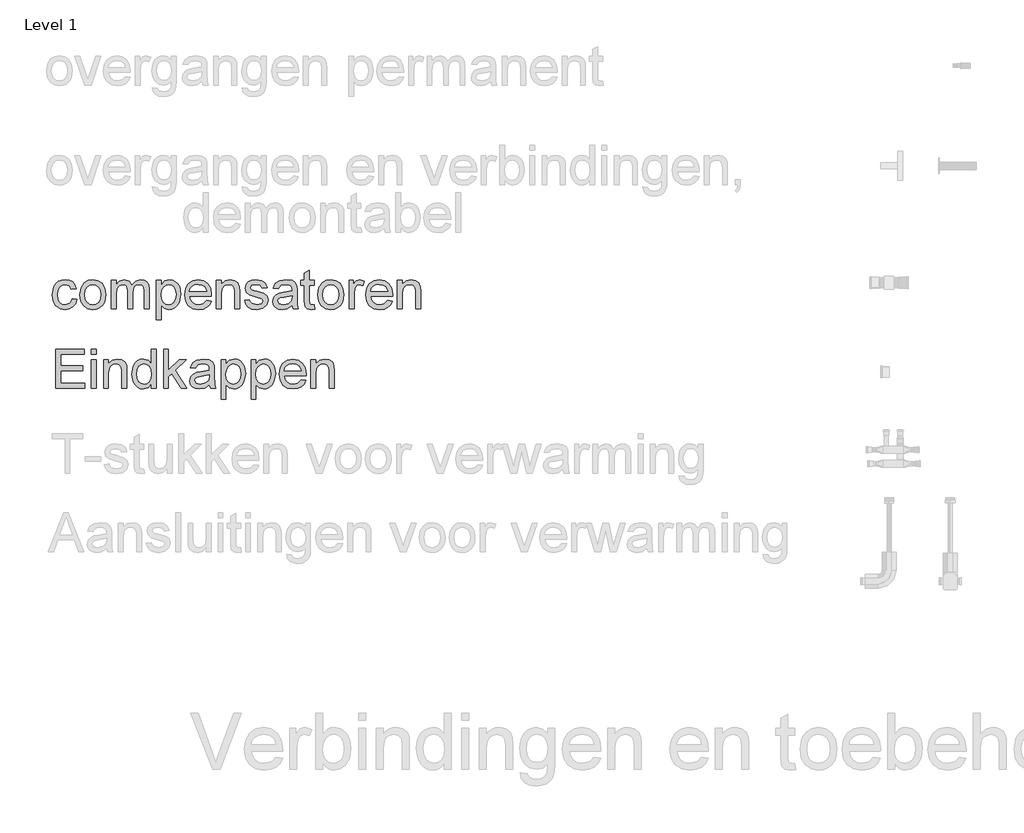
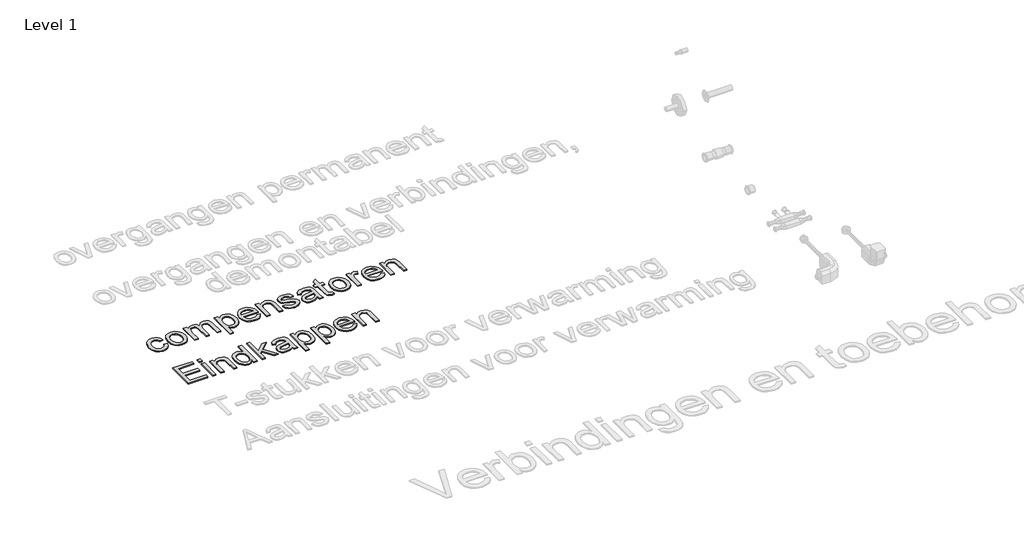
# One storey, part 5 of 8: 2 proxies.
"""IFC4 building model written with IfcOpenShell, lengths in millimetres."""

from ifc_helpers import new_model, si_unit, origin, origin_with_axes, place, context, project, spatial, polyline, outline, extrude, element, save

model = new_model("IFC4")

# Units and contexts
model_context = context("Model", 3, world=origin())
ifc_project = project(units=[si_unit("LENGTHUNIT", "METRE", prefix="MILLI")], contexts=[model_context])

# Site, building, storey
site = spatial("IfcSite", under=ifc_project)
building = spatial("IfcBuilding", under=site)
storey = spatial("IfcBuildingStorey", under=building, Name="Level 1", Elevation=0.0)

# Proxies
placement = place(None, origin())
element("IfcBuildingElementProxy", 1, Name="small", ObjectType="small", at=placement, inside=storey, context=model_context, shape_type="SweptSolid", body=[
    extrude(outline(polyline([(2726.3191221, 4813.8562542), (2743.8989764, 4811.6587724), (2738.9975619, 4796.0231745), (2729.787023, 4784.2074179), (2717.1343349, 4776.778041), (2701.9064729, 4774.3015821), (2683.2064179, 4777.7566071), (2668.5837218, 4788.1216823), (2659.1457092, 4804.9418603), (2655.999705, 4827.7621936), (2661.3732347, 4856.9646664), (2668.1545261, 4867.9134477), (2677.7513411, 4875.7291007), (2689.232325, 4880.4159173), (2701.6661233, 4881.9781895), (2716.5205851, 4879.8322112), (2728.3964291, 4873.3942763), (2736.915963, 4863.0077413), (2741.7014946, 4849.0159627), (2724.1216403, 4846.8184809), (2715.9669227, 4859.9862038), (2701.8034659, 4864.3983352), (2690.4426568, 4862.2266052), (2681.4252559, 4855.711415), (2675.5409834, 4844.5008244), (2673.5795593, 4828.2428927), (2675.4980639, 4811.7660713), (2681.2535777, 4800.516853), (2690.1078842, 4794.0402905), (2701.3227668, 4791.8814363), (2717.8897193, 4797.2721338), (2723.3190444, 4804.1135127), (2726.3191221, 4813.8562542)])), origin_with_axes(), (0.0, 0.0, 1.0), 5.0),
    extrude(outline(polyline([(2754.8863853, 4828.1398858), (2758.6890588, 4853.041818), (2770.0970795, 4870.5444171), (2784.191865, 4879.1197464), (2801.0678384, 4881.9781895), (2819.5361277, 4878.4974127), (2834.2875826, 4868.0550823), (2843.9573608, 4851.4752539), (2847.1806202, 4829.5819832), (2845.7556906, 4811.8218667), (2841.4809019, 4798.3022034), (2834.4807206, 4788.1774778), (2824.8796137, 4780.6021744), (2813.475885, 4775.8767301), (2801.0678384, 4774.3015821), (2782.3763674, 4777.769483), (2767.6420803, 4788.1731858), (2758.0753091, 4805.1006627), (2754.8863853, 4828.1398858)]), holes=[polyline([(2772.4662396, 4828.1742214), (2774.500627, 4812.2639383), (2780.6037893, 4800.9288809), (2789.7885764, 4794.1432975), (2801.0678384, 4791.8814363), (2812.2955969, 4794.1561733), (2821.4632162, 4800.9803843), (2827.5663785, 4812.4656602), (2829.600766, 4828.7235919), (2827.5535027, 4844.1703437), (2821.4117128, 4855.3508907), (2812.2312176, 4862.1364741), (2801.0678384, 4864.3983352), (2789.7885764, 4862.145058), (2780.6037893, 4855.3852263), (2774.500627, 4844.0759207), (2772.4662396, 4828.1742214)])]), origin_with_axes(), (0.0, 0.0, 1.0), 5.0),
    extrude(outline(polyline([(2866.9579563, 4776.4990638), (2866.9579563, 4879.7807077), (2884.5378106, 4879.7807077), (2884.5378106, 4862.7845595), (2896.6239604, 4876.7076668), (2913.8261225, 4881.9781895), (2931.4403124, 4876.6046598), (2941.1229665, 4861.548476), (2954.8400599, 4876.8707611), (2972.1623967, 4881.9781895), (2985.3773311, 4879.853671), (2995.1501163, 4873.4801154), (3001.1888993, 4862.6858445), (3003.2018269, 4847.2991801), (3003.2018269, 4776.4990638), (2985.6219727, 4776.4990638), (2985.6219727, 4839.7453364), (2983.9910292, 4854.4238281), (2978.0852969, 4861.651483), (2968.0421184, 4864.3983352), (2958.5182667, 4862.638633), (2950.7541172, 4857.3595264), (2945.5908934, 4848.200491), (2943.8698188, 4834.8010024), (2943.8698188, 4776.4990638), (2926.2899645, 4776.4990638), (2926.2899645, 4841.7024687), (2922.2211896, 4858.7329525), (2916.8519519, 4862.9819895), (2908.8817885, 4864.3983352), (2895.868576, 4860.6214134), (2887.2159915, 4849.5653332), (2884.5378106, 4828.5862493), (2884.5378106, 4776.4990638), (2866.9579563, 4776.4990638)])), origin_with_axes(), (0.0, 0.0, 1.0), 5.0),
    extrude(outline(polyline([(3029.5716084, 4736.9443917), (3029.5716084, 4879.7807077), (3047.1514626, 4879.7807077), (3047.1514626, 4862.54421), (3059.3062838, 4877.1196946), (3075.7187258, 4881.9781895), (3087.6074456, 4880.2785747), (3098.0025646, 4875.1797302), (3106.466303, 4866.990677), (3112.5608814, 4856.0204359), (3117.4708797, 4828.9296058), (3111.9256718, 4800.4481817), (3105.1272125, 4789.2719267), (3095.8222506, 4781.0485378), (3084.9850602, 4775.988321), (3073.5899154, 4774.3015821), (3058.293382, 4778.8167204), (3047.1514626, 4790.233325), (3047.1514626, 4736.9443917), (3029.5716084, 4736.9443917)]), holes=[polyline([(3047.1514626, 4827.3158301), (3049.0527994, 4811.5557654), (3054.7568097, 4800.5340209), (3063.1733367, 4794.0445825), (3073.2122232, 4791.8814363), (3083.414204, 4794.1218377), (3092.0453288, 4800.8430417), (3097.9296013, 4812.2682302), (3099.8910255, 4828.6205849), (3097.9768128, 4844.2948105), (3092.2341749, 4855.4710655), (3083.8305238, 4862.1665178), (3073.9332719, 4864.3983352), (3063.9973923, 4862.0248832), (3055.2718445, 4854.9045272), (3049.1815581, 4843.2604489), (3047.1514626, 4827.3158301)])]), origin_with_axes(), (0.0, 0.0, 1.0), 5.0),
    extrude(outline(polyline([(3209.5591008, 4807.2638088), (3226.7955985, 4805.066327), (3220.5851373, 4792.0788663), (3210.6750095, 4782.3704605), (3197.2883968, 4776.3188017), (3180.648481, 4774.3015821), (3160.0213376, 4777.7823589), (3144.149682, 4788.2246893), (3134.0292483, 4804.9504442), (3130.6557704, 4827.2814945), (3134.063584, 4850.3636371), (3144.2870246, 4867.6258866), (3159.9440824, 4878.3901138), (3179.6527471, 4881.9781895), (3198.7476621, 4878.3986977), (3214.0055678, 4867.6602222), (3224.0101187, 4850.4323084), (3227.344969, 4827.3845014), (3227.241962, 4822.6461813), (3148.2356247, 4822.6461813), (3151.278622, 4809.4870423), (3158.3474745, 4799.8129721), (3168.5494554, 4793.8643203), (3180.9918376, 4791.8814363), (3198.2283353, 4795.5553512), (3209.5591008, 4807.2638088)]), holes=[polyline([(3148.2356247, 4840.2260356), (3209.7651147, 4840.2260356), (3202.7263058, 4856.1577785), (3192.4771135, 4862.338196), (3179.5840758, 4864.3983352), (3167.7339836, 4862.7545158), (3157.9354467, 4857.8230577), (3151.1241115, 4850.1361634), (3148.2356247, 4840.2260356)])]), origin_with_axes(), (0.0, 0.0, 1.0), 5.0),
    extrude(outline(polyline([(3244.9248232, 4776.4990638), (3244.9248232, 4879.7807077), (3262.5046775, 4879.7807077), (3262.5046775, 4865.3597335), (3275.9470856, 4877.8235755), (3294.2994921, 4881.9781895), (3310.9007803, 4878.6304633), (3322.2315457, 4869.8405362), (3327.5020684, 4856.9131629), (3328.4291311, 4839.9170147), (3328.4291311, 4776.4990638), (3310.8492768, 4776.4990638), (3310.8492768, 4837.5478547), (3308.8234733, 4853.1019054), (3301.6644896, 4861.3252943), (3289.5955076, 4864.3983352), (3279.2991037, 4862.6729687), (3270.5220525, 4857.496869), (3264.5090213, 4847.4966101), (3262.5046775, 4831.2987658), (3262.5046775, 4776.4990638), (3244.9248232, 4776.4990638)])), origin_with_axes(), (0.0, 0.0, 1.0), 5.0),
    extrude(outline(polyline([(3346.0089853, 4807.2638088), (3363.5888396, 4809.4612906), (3366.3614436, 4801.9417826), (3371.7263893, 4796.4137425), (3390.3706489, 4791.8814363), (3408.2938597, 4796.0360503), (3414.1309206, 4805.7873757), (3408.259524, 4813.6845759), (3390.1646349, 4818.6975812), (3363.6918466, 4827.2986623), (3352.1378994, 4837.3418407), (3348.2064671, 4851.5224654), (3351.3653472, 4864.621517), (3359.9835961, 4874.6303598), (3371.1598511, 4879.8322112), (3386.2847062, 4881.9781895), (3407.6758179, 4878.5274564), (3421.2727364, 4869.1881588), (3427.3158114, 4853.4109263), (3409.7359571, 4851.2134445), (3403.1263439, 4860.9132665), (3387.6581323, 4864.3983352), (3370.8336624, 4861.0677769), (3365.7863214, 4853.3079193), (3367.8807962, 4848.1919071), (3374.4389059, 4844.3119783), (3389.5809288, 4840.5693921), (3415.384172, 4832.2944998), (3427.3673148, 4822.9208665), (3431.7107749, 4807.641501), (3426.6119305, 4790.8170311), (3411.8991032, 4778.6107065), (3390.1302993, 4774.3015821), (3372.4045185, 4776.3788891), (3359.4685613, 4782.6108101), (3350.8331446, 4792.9286737), (3346.0089853, 4807.2638088)])), origin_with_axes(), (0.0, 0.0, 1.0), 5.0),
    extrude(outline(polyline([(3517.4125645, 4789.6839545), (3500.3649129, 4777.769483), (3481.5318073, 4774.3015821), (3466.8404398, 4776.387473), (3456.0032493, 4782.6451457), (3449.3206729, 4792.1475376), (3447.0931474, 4803.9675861), (3450.4580414, 4817.8735256), (3459.299472, 4827.9682075), (3471.6088036, 4833.7365972), (3486.8194978, 4836.3804425), (3517.3095576, 4842.4235174), (3517.4125645, 4846.3377818), (3516.2022328, 4854.1834785), (3512.5712375, 4859.3166586), (3504.4508556, 4863.1279161), (3493.1372579, 4864.3983352), (3475.3513897, 4861.0162734), (3466.8704835, 4849.0159627), (3449.2906292, 4851.2134445), (3456.8959763, 4868.381271), (3472.2096775, 4878.4416172), (3495.403411, 4881.9781895), (3516.7086836, 4878.8536451), (3528.74333, 4871.0079484), (3534.1340275, 4859.076309), (3534.9924188, 4843.6939365), (3534.9924188, 4821.8221256), (3535.8851458, 4791.2805624), (3539.3873824, 4776.4990638), (3521.8075281, 4776.4990638), (3517.4125645, 4789.6839545)]), holes=[polyline([(3517.4125645, 4824.8436631), (3489.0513152, 4819.4529656), (3473.9264601, 4816.6031064), (3467.0764974, 4811.9677933), (3464.6730017, 4805.2036696), (3469.9091888, 4795.6926938), (3485.2743934, 4791.8814363), (3503.0602616, 4796.0875538), (3514.5283697, 4806.2680749), (3517.3095576, 4819.8649934), (3517.4125645, 4824.8436631)])]), origin_with_axes(), (0.0, 0.0, 1.0), 5.0),
    extrude(outline(polyline([(3596.5219088, 4791.1603876), (3598.7193905, 4775.984029), (3585.5688355, 4774.3015821), (3570.8388404, 4777.2201125), (3563.4910107, 4784.8769631), (3561.3622002, 4804.8259775), (3561.3622002, 4862.2008534), (3548.1773095, 4862.2008534), (3548.1773095, 4879.7807077), (3561.3622002, 4879.7807077), (3561.3622002, 4904.88007), (3578.9420545, 4915.2151015), (3578.9420545, 4879.7807077), (3596.5219088, 4879.7807077), (3596.5219088, 4862.2008534), (3578.9420545, 4862.2008534), (3578.9420545, 4805.3410123), (3579.8691171, 4796.2763999), (3582.8734867, 4793.0660164), (3588.8650582, 4791.8814363), (3596.5219088, 4791.1603876)])), origin_with_axes(), (0.0, 0.0, 1.0), 5.0),
    extrude(outline(polyline([(3609.7067995, 4828.1398858), (3613.509473, 4853.041818), (3624.9174937, 4870.5444171), (3639.0122792, 4879.1197464), (3655.8882526, 4881.9781895), (3674.3565419, 4878.4974127), (3689.1079968, 4868.0550823), (3698.777775, 4851.4752539), (3702.0010344, 4829.5819832), (3700.5761048, 4811.8218667), (3696.301316, 4798.3022034), (3689.3011348, 4788.1774778), (3679.7000279, 4780.6021744), (3668.2962992, 4775.8767301), (3655.8882526, 4774.3015821), (3637.1967816, 4777.769483), (3622.4624945, 4788.1731858), (3612.8957232, 4805.1006627), (3609.7067995, 4828.1398858)]), holes=[polyline([(3627.2866537, 4828.1742214), (3629.3210412, 4812.2639383), (3635.4242035, 4800.9288809), (3644.6089906, 4794.1432975), (3655.8882526, 4791.8814363), (3667.1160111, 4794.1561733), (3676.2836304, 4800.9803843), (3682.3867927, 4812.4656602), (3684.4211801, 4828.7235919), (3682.3739168, 4844.1703437), (3676.2321269, 4855.3508907), (3667.0516317, 4862.1364741), (3655.8882526, 4864.3983352), (3644.6089906, 4862.145058), (3635.4242035, 4855.3852263), (3629.3210412, 4844.0759207), (3627.2866537, 4828.1742214)])]), origin_with_axes(), (0.0, 0.0, 1.0), 5.0),
    extrude(outline(polyline([(3721.7783705, 4776.4990638), (3721.7783705, 4879.7807077), (3737.160743, 4879.7807077), (3737.160743, 4864.5013422), (3748.0794806, 4878.5789599), (3759.0668895, 4881.9781895), (3776.7154151, 4876.5531563), (3770.8440185, 4860.7930917), (3758.4831834, 4864.3983352), (3748.5430119, 4860.9304343), (3742.2080839, 4851.3164515), (3739.3582248, 4830.783731), (3739.3582248, 4776.4990638), (3721.7783705, 4776.4990638)])), origin_with_axes(), (0.0, 0.0, 1.0), 5.0),
    extrude(outline(polyline([(3860.013709, 4807.2638088), (3877.2502067, 4805.066327), (3871.0397455, 4792.0788663), (3861.1296177, 4782.3704605), (3847.743005, 4776.3188017), (3831.1030893, 4774.3015821), (3810.4759458, 4777.7823589), (3794.6042902, 4788.2246893), (3784.4838566, 4804.9504442), (3781.1103787, 4827.2814945), (3784.5181922, 4850.3636371), (3794.7416329, 4867.6258866), (3810.3986906, 4878.3901138), (3830.1073553, 4881.9781895), (3849.2022703, 4878.3986977), (3864.460176, 4867.6602222), (3874.4647269, 4850.4323084), (3877.7995772, 4827.3845014), (3877.6965702, 4822.6461813), (3798.6902329, 4822.6461813), (3801.7332302, 4809.4870423), (3808.8020827, 4799.8129721), (3819.0040636, 4793.8643203), (3831.4464458, 4791.8814363), (3848.6829435, 4795.5553512), (3860.013709, 4807.2638088)]), holes=[polyline([(3798.6902329, 4840.2260356), (3860.2197229, 4840.2260356), (3853.1809141, 4856.1577785), (3842.9317217, 4862.338196), (3830.038684, 4864.3983352), (3818.1885918, 4862.7545158), (3808.3900549, 4857.8230577), (3801.5787197, 4850.1361634), (3798.6902329, 4840.2260356)])]), origin_with_axes(), (0.0, 0.0, 1.0), 5.0),
    extrude(outline(polyline([(3895.3794315, 4776.4990638), (3895.3794315, 4879.7807077), (3912.9592857, 4879.7807077), (3912.9592857, 4865.3597335), (3926.4016938, 4877.8235755), (3944.7541003, 4881.9781895), (3961.3553885, 4878.6304633), (3972.6861539, 4869.8405362), (3977.9566766, 4856.9131629), (3978.8837393, 4839.9170147), (3978.8837393, 4776.4990638), (3961.303885, 4776.4990638), (3961.303885, 4837.5478547), (3959.2780815, 4853.1019054), (3952.1190978, 4861.3252943), (3940.0501159, 4864.3983352), (3929.753712, 4862.6729687), (3920.9766607, 4857.496869), (3914.9636295, 4847.4966101), (3912.9592857, 4831.2987658), (3912.9592857, 4776.4990638), (3895.3794315, 4776.4990638)])), origin_with_axes(), (0.0, 0.0, 1.0), 5.0),
])
element("IfcBuildingElementProxy", 2, Name="small", ObjectType="small", at=placement, inside=storey, context=model_context, shape_type="SweptSolid", body=[
    extrude(outline(polyline([(2668.391467, 4491.2253518), (2668.391467, 4631.864186), (2769.4756291, 4631.864186), (2769.4756291, 4614.2843318), (2685.9713213, 4614.2843318), (2685.9713213, 4572.5321779), (2765.0806656, 4572.5321779), (2765.0806656, 4554.9523236), (2685.9713213, 4554.9523236), (2685.9713213, 4508.8052061), (2771.6731109, 4508.8052061), (2771.6731109, 4491.2253518), (2668.391467, 4491.2253518)])), origin_with_axes(), (0.0, 0.0, 1.0), 5.0),
    extrude(outline(polyline([(2795.8454105, 4614.2843318), (2795.8454105, 4631.864186), (2813.4252648, 4631.864186), (2813.4252648, 4614.2843318), (2795.8454105, 4614.2843318)])), origin_with_axes(), (0.0, 0.0, 1.0), 5.0),
    extrude(outline(polyline([(2795.8454105, 4491.2253518), (2795.8454105, 4594.5069957), (2813.4252648, 4594.5069957), (2813.4252648, 4491.2253518), (2795.8454105, 4491.2253518)])), origin_with_axes(), (0.0, 0.0, 1.0), 5.0),
    extrude(outline(polyline([(2839.7950462, 4491.2253518), (2839.7950462, 4594.5069957), (2857.3749005, 4594.5069957), (2857.3749005, 4580.0860215), (2870.8173086, 4592.5498635), (2889.1697151, 4596.7044775), (2905.7710032, 4593.3567513), (2917.1017687, 4584.5668242), (2922.3722914, 4571.6394509), (2923.299354, 4554.6433027), (2923.299354, 4491.2253518), (2905.7194998, 4491.2253518), (2905.7194998, 4552.2741427), (2903.6936962, 4567.8281934), (2896.5347126, 4576.0515823), (2884.4657306, 4579.1246232), (2874.1693267, 4577.3992567), (2865.3922754, 4572.223157), (2859.3792442, 4562.2228981), (2857.3749005, 4546.0250538), (2857.3749005, 4491.2253518), (2839.7950462, 4491.2253518)])), origin_with_axes(), (0.0, 0.0, 1.0), 5.0),
    extrude(outline(polyline([(3011.1986254, 4491.2253518), (3011.1986254, 4507.8094722), (2999.567423, 4493.7232706), (2983.4897535, 4489.02787), (2972.1246524, 4490.7274849), (2961.7209496, 4495.8263293), (2952.9138546, 4503.968171), (2946.3385771, 4514.7967775), (2940.8792083, 4542.7631668), (2945.9093815, 4570.7467239), (2952.1928059, 4581.8457237), (2960.9827331, 4590.0090252), (2971.6139096, 4595.0306144), (2983.4210822, 4596.7044775), (2999.6275104, 4591.9146539), (3011.1986254, 4579.4679797), (3011.1986254, 4631.864186), (3028.7784797, 4631.864186), (3028.7784797, 4491.2253518), (3011.1986254, 4491.2253518)]), holes=[polyline([(2958.4590626, 4542.8318381), (2960.4419465, 4526.9301389), (2966.3905984, 4515.6208332), (2975.034599, 4508.8610015), (2985.1035292, 4506.6077243), (2995.1681675, 4508.7579946), (3003.5932783, 4515.2088054), (3009.2972886, 4526.0803315), (3011.1986254, 4541.4927476), (3009.262953, 4558.3429693), (3003.4559357, 4570.0256752), (2994.816227, 4576.8498862), (2984.3824805, 4579.1246232), (2974.2105433, 4576.9400173), (2965.8755636, 4570.3861995), (2960.3131878, 4559.1283974), (2958.4590626, 4542.8318381)])]), origin_with_axes(), (0.0, 0.0, 1.0), 5.0),
    extrude(outline(polyline([(3055.1482611, 4491.2253518), (3055.1482611, 4631.864186), (3072.7281154, 4631.864186), (3072.7281154, 4556.291414), (3112.1454449, 4594.5069957), (3136.4550871, 4594.5069957), (3096.5570585, 4555.8107149), (3138.6525689, 4491.2253518), (3118.1198485, 4491.2253518), (3083.9558739, 4543.5872225), (3072.7281154, 4532.7028205), (3072.7281154, 4491.2253518), (3055.1482611, 4491.2253518)])), origin_with_axes(), (0.0, 0.0, 1.0), 5.0),
    extrude(outline(polyline([(3219.9593949, 4504.4102425), (3202.9117433, 4492.495771), (3184.0786377, 4489.02787), (3169.3872702, 4491.113761), (3158.5500798, 4497.3714337), (3151.8675033, 4506.8738256), (3149.6399778, 4518.6938741), (3153.0048718, 4532.5998136), (3161.8463024, 4542.6944955), (3174.155634, 4548.4628852), (3189.3663282, 4551.1067305), (3219.856388, 4557.1498054), (3219.9593949, 4561.0640698), (3218.7490632, 4568.9097665), (3215.1180679, 4574.0429466), (3206.997686, 4577.8542041), (3195.6840884, 4579.1246232), (3177.8982202, 4575.7425614), (3169.4173139, 4563.7422507), (3151.8374596, 4565.9397325), (3159.4428067, 4583.1075589), (3174.7565079, 4593.1679052), (3197.9502414, 4596.7044775), (3219.2555141, 4593.5799331), (3231.2901604, 4585.7342364), (3236.6808579, 4573.802597), (3237.5392492, 4558.4202245), (3237.5392492, 4536.5484136), (3238.4319762, 4506.0068504), (3241.9342128, 4491.2253518), (3224.3543585, 4491.2253518), (3219.9593949, 4504.4102425)]), holes=[polyline([(3219.9593949, 4539.5699511), (3191.5981457, 4534.1792536), (3176.4732906, 4531.3293944), (3169.6233278, 4526.6940813), (3167.2198321, 4519.9299576), (3172.4560192, 4510.4189818), (3187.8212238, 4506.6077243), (3205.607092, 4510.8138418), (3217.0752001, 4520.9943629), (3219.856388, 4534.5912814), (3219.9593949, 4539.5699511)])]), origin_with_axes(), (0.0, 0.0, 1.0), 5.0),
    extrude(outline(polyline([(3261.7115489, 4451.6706797), (3261.7115489, 4594.5069957), (3279.2914031, 4594.5069957), (3279.2914031, 4577.270498), (3291.4462243, 4591.8459826), (3307.8586663, 4596.7044775), (3319.7473861, 4595.0048627), (3330.142505, 4589.9060182), (3338.6062435, 4581.716965), (3344.7008219, 4570.7467239), (3349.6108202, 4543.6558938), (3344.0656123, 4515.1744697), (3337.267153, 4503.9982147), (3327.9621911, 4495.7748258), (3317.1250007, 4490.714609), (3305.7298558, 4489.02787), (3290.4333225, 4493.5430084), (3279.2914031, 4504.959613), (3279.2914031, 4451.6706797), (3261.7115489, 4451.6706797)]), holes=[polyline([(3279.2914031, 4542.0421181), (3281.1927399, 4526.2820534), (3286.8967502, 4515.2603088), (3295.3132772, 4508.7708705), (3305.3521637, 4506.6077243), (3315.5541445, 4508.8481257), (3324.1852693, 4515.5693297), (3330.0695418, 4526.9945182), (3332.030966, 4543.3468729), (3330.1167533, 4559.0210984), (3324.3741154, 4570.1973535), (3315.9704643, 4576.8928058), (3306.0732124, 4579.1246232), (3296.1373328, 4576.7511712), (3287.411785, 4569.6308152), (3281.3214986, 4557.9867369), (3279.2914031, 4542.0421181)])]), origin_with_axes(), (0.0, 0.0, 1.0), 5.0),
    extrude(outline(polyline([(3369.3881563, 4451.6706797), (3369.3881563, 4594.5069957), (3386.9680106, 4594.5069957), (3386.9680106, 4577.270498), (3399.1228317, 4591.8459826), (3415.5352738, 4596.7044775), (3427.4239936, 4595.0048627), (3437.8191125, 4589.9060182), (3446.2828509, 4581.716965), (3452.3774293, 4570.7467239), (3457.2874277, 4543.6558938), (3451.7422197, 4515.1744697), (3444.9437605, 4503.9982147), (3435.6387985, 4495.7748258), (3424.8016081, 4490.714609), (3413.4064633, 4489.02787), (3398.1099299, 4493.5430084), (3386.9680106, 4504.959613), (3386.9680106, 4451.6706797), (3369.3881563, 4451.6706797)]), holes=[polyline([(3386.9680106, 4542.0421181), (3388.8693473, 4526.2820534), (3394.5733577, 4515.2603088), (3402.9898846, 4508.7708705), (3413.0287711, 4506.6077243), (3423.230752, 4508.8481257), (3431.8618767, 4515.5693297), (3437.7461492, 4526.9945182), (3439.7075734, 4543.3468729), (3437.7933608, 4559.0210984), (3432.0507228, 4570.1973535), (3423.6470718, 4576.8928058), (3413.7498198, 4579.1246232), (3403.8139403, 4576.7511712), (3395.0883925, 4569.6308152), (3388.998106, 4557.9867369), (3386.9680106, 4542.0421181)])]), origin_with_axes(), (0.0, 0.0, 1.0), 5.0),
    extrude(outline(polyline([(3549.3756487, 4521.9900968), (3566.6121465, 4519.792615), (3560.4016852, 4506.8051543), (3550.4915574, 4497.0967485), (3537.1049448, 4491.0450896), (3520.465029, 4489.02787), (3499.8378855, 4492.5086469), (3483.96623, 4502.9509773), (3473.8457963, 4519.6767322), (3470.4723184, 4542.0077824), (3473.8801319, 4565.0899251), (3484.1035726, 4582.3521746), (3499.7606303, 4593.1164018), (3519.469295, 4596.7044775), (3538.56421, 4593.1249857), (3553.8221158, 4582.3865102), (3563.8266666, 4565.1585964), (3567.1615169, 4542.1107894), (3567.0585099, 4537.3724693), (3488.0521727, 4537.3724693), (3491.0951699, 4524.2133303), (3498.1640224, 4514.5392601), (3508.3660033, 4508.5906083), (3520.8083855, 4506.6077243), (3538.0448833, 4510.2816392), (3549.3756487, 4521.9900968)]), holes=[polyline([(3488.0521727, 4554.9523236), (3549.5816626, 4554.9523236), (3542.5428538, 4570.8840665), (3532.2936614, 4577.064484), (3519.4006237, 4579.1246232), (3507.5505315, 4577.4808038), (3497.7519946, 4572.5493457), (3490.9406595, 4564.8624514), (3488.0521727, 4554.9523236)])]), origin_with_axes(), (0.0, 0.0, 1.0), 5.0),
    extrude(outline(polyline([(3584.7413712, 4491.2253518), (3584.7413712, 4594.5069957), (3602.3212255, 4594.5069957), (3602.3212255, 4580.0860215), (3615.7636336, 4592.5498635), (3634.11604, 4596.7044775), (3650.7173282, 4593.3567513), (3662.0480936, 4584.5668242), (3667.3186164, 4571.6394509), (3668.245679, 4554.6433027), (3668.245679, 4491.2253518), (3650.6658247, 4491.2253518), (3650.6658247, 4552.2741427), (3648.6400212, 4567.8281934), (3641.4810376, 4576.0515823), (3629.4120556, 4579.1246232), (3619.1156517, 4577.3992567), (3610.3386004, 4572.223157), (3604.3255692, 4562.2228981), (3602.3212255, 4546.0250538), (3602.3212255, 4491.2253518), (3584.7413712, 4491.2253518)])), origin_with_axes(), (0.0, 0.0, 1.0), 5.0),
])

save(model, "model.ifc")
